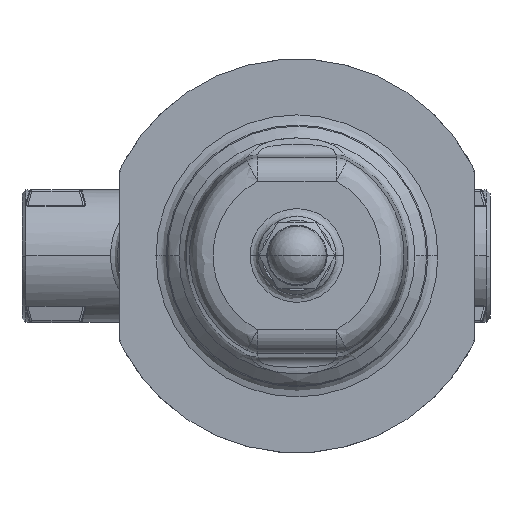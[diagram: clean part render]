
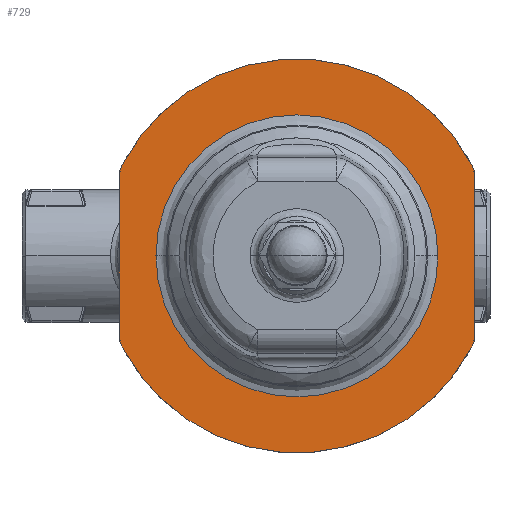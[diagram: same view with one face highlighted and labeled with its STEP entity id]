
A CAD part, top view. The second image highlights one B-rep face of the part: STEP entity #729.
In plain terms, the highlighted planar face has unit normal (0, 0, 1).
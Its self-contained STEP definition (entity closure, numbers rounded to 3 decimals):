
#729=ADVANCED_FACE('',(#5903,#5904),#5902,.F.);
#5902=PLANE('',#15468);
#5903=FACE_OUTER_BOUND('',#15469,.T.);
#5904=FACE_BOUND('',#15470,.T.);
#15465=CARTESIAN_POINT('',(54.6,-60.5,7.));
#15466=DIRECTION('',(0.,0.,-1.));
#15467=DIRECTION('',(-1.,0.,0.));
#15468=AXIS2_PLACEMENT_3D('',#15465,#15466,#15467);
#15469=EDGE_LOOP('',(#19109,#19110,#19111,#19112,#19113,#19114,#19115,#19116));
#15470=EDGE_LOOP('',(#19117,#19118));
#19109=ORIENTED_EDGE('',*,*,#20785,.F.);
#19110=ORIENTED_EDGE('',*,*,#20732,.T.);
#19111=ORIENTED_EDGE('',*,*,#20777,.F.);
#19112=ORIENTED_EDGE('',*,*,#20720,.T.);
#19113=ORIENTED_EDGE('',*,*,#20784,.F.);
#19114=ORIENTED_EDGE('',*,*,#20724,.T.);
#19115=ORIENTED_EDGE('',*,*,#20786,.F.);
#19116=ORIENTED_EDGE('',*,*,#20728,.T.);
#19117=ORIENTED_EDGE('',*,*,#20788,.T.);
#19118=ORIENTED_EDGE('',*,*,#20789,.T.);
#20720=EDGE_CURVE('',#28541,#28534,#28542,.T.);
#20724=EDGE_CURVE('',#28569,#28562,#28570,.T.);
#20728=EDGE_CURVE('',#28597,#28590,#28598,.T.);
#20732=EDGE_CURVE('',#28625,#28618,#28626,.T.);
#20777=EDGE_CURVE('',#28541,#28618,#28920,.T.);
#20784=EDGE_CURVE('',#28569,#28534,#28964,.T.);
#20785=EDGE_CURVE('',#28625,#28590,#28970,.T.);
#20786=EDGE_CURVE('',#28597,#28562,#28976,.T.);
#20788=EDGE_CURVE('',#28988,#28989,#28990,.T.);
#20789=EDGE_CURVE('',#28989,#28988,#28996,.T.);
#28534=VERTEX_POINT('',#37778);
#28541=VERTEX_POINT('',#37782);
#28542=CIRCLE('',#37786,6.5);
#28562=VERTEX_POINT('',#37796);
#28569=VERTEX_POINT('',#37800);
#28570=CIRCLE('',#37804,6.5);
#28590=VERTEX_POINT('',#37814);
#28597=VERTEX_POINT('',#37818);
#28598=CIRCLE('',#37822,6.5);
#28618=VERTEX_POINT('',#37832);
#28625=VERTEX_POINT('',#37836);
#28626=CIRCLE('',#37840,6.5);
#28920=CIRCLE('',#38126,50.5);
#28964=LINE('',#38151,#38152);
#28970=LINE('',#38154,#38155);
#28976=CIRCLE('',#38160,50.5);
#28988=VERTEX_POINT('',#38164);
#28989=VERTEX_POINT('',#38165);
#28990=CIRCLE('',#38169,36.155);
#28996=CIRCLE('',#38173,36.155);
#37778=CARTESIAN_POINT('',(-45.5,20.372,7.));
#37782=CARTESIAN_POINT('',(-44.761,23.381,7.));
#37783=CARTESIAN_POINT('',(-39.,20.372,7.));
#37784=DIRECTION('',(0.,0.,1.));
#37785=DIRECTION('',(1.,0.,0.));
#37786=AXIS2_PLACEMENT_3D('',#37783,#37784,#37785);
#37796=CARTESIAN_POINT('',(-44.761,-23.381,7.));
#37800=CARTESIAN_POINT('',(-45.5,-20.372,7.));
#37801=CARTESIAN_POINT('',(-39.,-20.372,7.));
#37802=DIRECTION('',(0.,0.,1.));
#37803=DIRECTION('',(1.,0.,0.));
#37804=AXIS2_PLACEMENT_3D('',#37801,#37802,#37803);
#37814=CARTESIAN_POINT('',(45.5,-20.372,7.));
#37818=CARTESIAN_POINT('',(44.761,-23.381,7.));
#37819=CARTESIAN_POINT('',(39.,-20.372,7.));
#37820=DIRECTION('',(0.,0.,1.));
#37821=DIRECTION('',(1.,0.,0.));
#37822=AXIS2_PLACEMENT_3D('',#37819,#37820,#37821);
#37832=CARTESIAN_POINT('',(44.761,23.381,7.));
#37836=CARTESIAN_POINT('',(45.5,20.372,7.));
#37837=CARTESIAN_POINT('',(39.,20.372,7.));
#37838=DIRECTION('',(0.,0.,1.));
#37839=DIRECTION('',(1.,0.,0.));
#37840=AXIS2_PLACEMENT_3D('',#37837,#37838,#37839);
#38123=CARTESIAN_POINT('',(0.,0.,7.));
#38124=DIRECTION('',(0.,0.,-1.));
#38125=DIRECTION('',(1.,0.,0.));
#38126=AXIS2_PLACEMENT_3D('',#38123,#38124,#38125);
#38151=CARTESIAN_POINT('',(-45.5,-20.372,7.));
#38152=VECTOR('',#38153,40.743);
#38153=DIRECTION('',(0.,1.,0.));
#38154=CARTESIAN_POINT('',(45.5,20.372,7.));
#38155=VECTOR('',#38156,40.743);
#38156=DIRECTION('',(0.,-1.,0.));
#38157=CARTESIAN_POINT('',(0.,0.,7.));
#38158=DIRECTION('',(0.,0.,-1.));
#38159=DIRECTION('',(1.,0.,0.));
#38160=AXIS2_PLACEMENT_3D('',#38157,#38158,#38159);
#38164=CARTESIAN_POINT('',(-36.155,0.,7.));
#38165=CARTESIAN_POINT('',(36.155,0.,7.));
#38166=CARTESIAN_POINT('',(0.,0.,7.));
#38167=DIRECTION('',(0.,0.,-1.));
#38168=DIRECTION('',(-1.,0.,0.));
#38169=AXIS2_PLACEMENT_3D('',#38166,#38167,#38168);
#38170=CARTESIAN_POINT('',(0.,0.,7.));
#38171=DIRECTION('',(0.,0.,-1.));
#38172=DIRECTION('',(-1.,0.,0.));
#38173=AXIS2_PLACEMENT_3D('',#38170,#38171,#38172);
